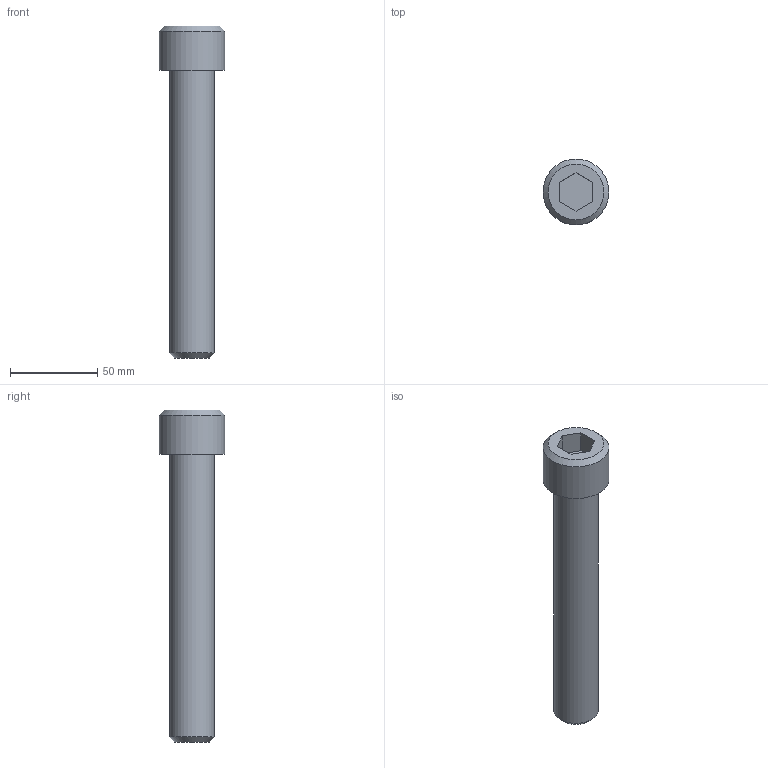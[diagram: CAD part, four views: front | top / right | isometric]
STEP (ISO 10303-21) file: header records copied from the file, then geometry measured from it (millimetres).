
FILE_DESCRIPTION((''),'2;1');
FILE_NAME('C:\Users\Stan\Desktop\import\SHCS 1-8 UNCx6.5.ipt.step','2011-08-18T17:44:22',(''),(''),'Autodesk Inventor 2012','Autodesk Inventor 2012','');
FILE_SCHEMA(('AUTOMOTIVE_DESIGN { 1 0 10303 214 1 1 1 1 }'));
Length unit declared in the file: inch
Products named in the file (1): SHCS 1-8 UNCx6.5
Bounding box: 37.8 x 37.8 x 190.35 mm (x, y, z)
Volume: 107250.3 mm3; surface area: 18887.2 mm2
Topology: 1 solids, 1 shells, 14 faces, 28 edges, 18 vertices
Faces by surface type: plane 10, cone 2, cylinder 2
Full cylindrical faces by diameter (mm): 25.4 x1, 37.795 x1
Entity records: 391 total; most frequent: DIRECTION 60, CARTESIAN_POINT 57, ORIENTED_EDGE 48, EDGE_CURVE 24, AXIS2_PLACEMENT_3D 21, EDGE_LOOP 20, VERTEX_POINT 18, VECTOR 18
